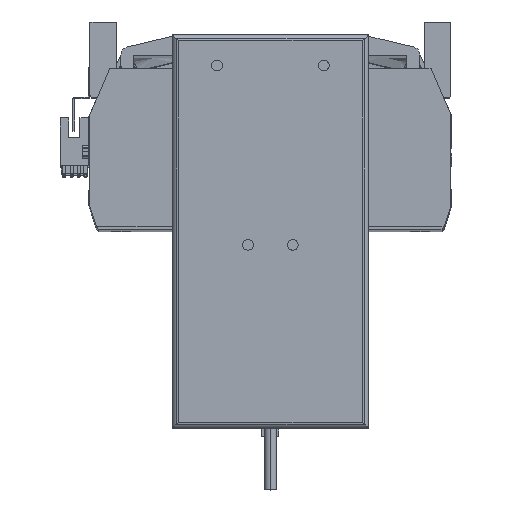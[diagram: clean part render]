
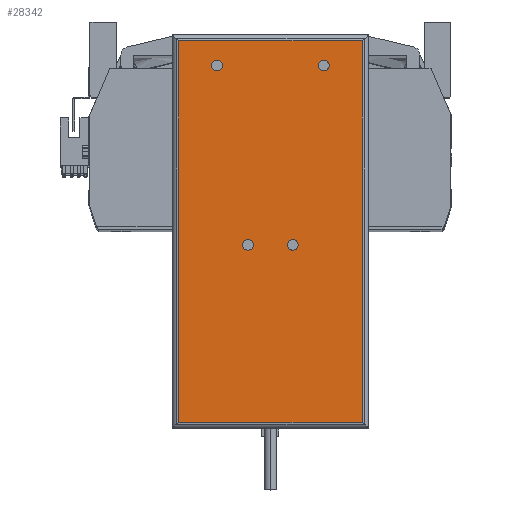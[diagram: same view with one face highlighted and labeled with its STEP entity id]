
A CAD part, top view. The second image highlights one B-rep face of the part: STEP entity #28342.
In plain terms, the highlighted planar face has unit normal (0, 0, 1) as drawn and (0, 0, -1) by its records, which use the part's own axes.
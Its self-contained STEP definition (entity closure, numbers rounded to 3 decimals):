
#518 = CARTESIAN_POINT ( 'NONE',  ( 10.5, -6.25, 0. ) ) ;
#946 = AXIS2_PLACEMENT_3D ( 'NONE', #7692, #36836, #37496 ) ;
#1344 = FACE_BOUND ( 'NONE', #45784, .T. ) ;
#1875 = CARTESIAN_POINT ( 'NONE',  ( 43., -89.25, 0. ) ) ;
#2002 = DIRECTION ( 'NONE',  ( -1., 0., 0. ) ) ;
#2312 = LINE ( 'NONE', #38564, #41422 ) ;
#2631 = CARTESIAN_POINT ( 'NONE',  ( -27.5, 77.75, 0. ) ) ;
#3006 = VERTEX_POINT ( 'NONE', #35651 ) ;
#3367 = ORIENTED_EDGE ( 'NONE', *, *, #8980, .F. ) ;
#3804 = VERTEX_POINT ( 'NONE', #13944 ) ;
#3977 = AXIS2_PLACEMENT_3D ( 'NONE', #9798, #20318, #2002 ) ;
#4500 = ORIENTED_EDGE ( 'NONE', *, *, #20117, .F. ) ;
#4527 = DIRECTION ( 'NONE',  ( -1., 0., 0. ) ) ;
#5779 = AXIS2_PLACEMENT_3D ( 'NONE', #34551, #19709, #12463 ) ;
#6053 = DIRECTION ( 'NONE',  ( 1., 0., 0. ) ) ;
#6352 = ORIENTED_EDGE ( 'NONE', *, *, #27190, .F. ) ;
#6392 = EDGE_LOOP ( 'NONE', ( #6423, #45584 ) ) ;
#6423 = ORIENTED_EDGE ( 'NONE', *, *, #13571, .F. ) ;
#6635 = EDGE_CURVE ( 'NONE', #3006, #37283, #2312, .T. ) ;
#7560 = AXIS2_PLACEMENT_3D ( 'NONE', #518, #25920, #4527 ) ;
#7692 = CARTESIAN_POINT ( 'NONE',  ( -25., 77.75, 0. ) ) ;
#8980 = EDGE_CURVE ( 'NONE', #12681, #25130, #18319, .T. ) ;
#9498 = CARTESIAN_POINT ( 'NONE',  ( 22.5, 77.75, 0. ) ) ;
#9798 = CARTESIAN_POINT ( 'NONE',  ( 25., 77.75, 0. ) ) ;
#10318 = EDGE_LOOP ( 'NONE', ( #3367, #6352 ) ) ;
#10661 = DIRECTION ( 'NONE',  ( -1., 0., 0. ) ) ;
#10786 = EDGE_CURVE ( 'NONE', #31329, #12184, #25059, .T. ) ;
#10947 = CARTESIAN_POINT ( 'NONE',  ( 25., 77.75, 0. ) ) ;
#11715 = CARTESIAN_POINT ( 'NONE',  ( 27.5, 77.75, 0. ) ) ;
#12026 = CARTESIAN_POINT ( 'NONE',  ( 8., -6.25, 0. ) ) ;
#12184 = VERTEX_POINT ( 'NONE', #11715 ) ;
#12463 = DIRECTION ( 'NONE',  ( -1., 0., 0. ) ) ;
#12681 = VERTEX_POINT ( 'NONE', #2631 ) ;
#12973 = ORIENTED_EDGE ( 'NONE', *, *, #47488, .T. ) ;
#13298 = AXIS2_PLACEMENT_3D ( 'NONE', #31787, #24059, #17130 ) ;
#13571 = EDGE_CURVE ( 'NONE', #46091, #43915, #41491, .T. ) ;
#13944 = CARTESIAN_POINT ( 'NONE',  ( -43., -89.25, 0. ) ) ;
#13972 = PLANE ( 'NONE',  #15790 ) ;
#14361 = DIRECTION ( 'NONE',  ( -1., 0., 0. ) ) ;
#15069 = LINE ( 'NONE', #41847, #33528 ) ;
#15120 = FACE_BOUND ( 'NONE', #6392, .T. ) ;
#15749 = VERTEX_POINT ( 'NONE', #43233 ) ;
#15790 = AXIS2_PLACEMENT_3D ( 'NONE', #32523, #43693, #40028 ) ;
#17130 = DIRECTION ( 'NONE',  ( -1., 0., 0. ) ) ;
#17313 = DIRECTION ( 'NONE',  ( 0., 0., -1. ) ) ;
#17891 = CIRCLE ( 'NONE', #7560, 2.5 ) ;
#18319 = CIRCLE ( 'NONE', #946, 2.5 ) ;
#19300 = AXIS2_PLACEMENT_3D ( 'NONE', #35346, #17313, #46525 ) ;
#19709 = DIRECTION ( 'NONE',  ( 0., 0., -1. ) ) ;
#20117 = EDGE_CURVE ( 'NONE', #12184, #31329, #20377, .T. ) ;
#20318 = DIRECTION ( 'NONE',  ( 0., 0., -1. ) ) ;
#20377 = CIRCLE ( 'NONE', #3977, 2.5 ) ;
#21260 = EDGE_LOOP ( 'NONE', ( #36484, #4500 ) ) ;
#21387 = ORIENTED_EDGE ( 'NONE', *, *, #33064, .T. ) ;
#21506 = DIRECTION ( 'NONE',  ( 0., 0., -1. ) ) ;
#22099 = EDGE_CURVE ( 'NONE', #37283, #27251, #15069, .T. ) ;
#23967 = CIRCLE ( 'NONE', #19300, 2.5 ) ;
#24059 = DIRECTION ( 'NONE',  ( 0., 0., -1. ) ) ;
#25059 = CIRCLE ( 'NONE', #37651, 2.5 ) ;
#25130 = VERTEX_POINT ( 'NONE', #45097 ) ;
#25760 = CARTESIAN_POINT ( 'NONE',  ( 13., -6.25, 0. ) ) ;
#25920 = DIRECTION ( 'NONE',  ( 0., 0., -1. ) ) ;
#26156 = EDGE_CURVE ( 'NONE', #15749, #35564, #23967, .T. ) ;
#26699 = CARTESIAN_POINT ( 'NONE',  ( -46., -89.25, 0. ) ) ;
#27190 = EDGE_CURVE ( 'NONE', #25130, #12681, #47426, .T. ) ;
#27251 = VERTEX_POINT ( 'NONE', #1875 ) ;
#27928 = VECTOR ( 'NONE', #39316, 1000. ) ;
#28342 = ADVANCED_FACE ( 'NONE', ( #36436, #1344, #15120, #29494, #35324 ), #13972, .F. ) ;
#29494 = FACE_BOUND ( 'NONE', #10318, .T. ) ;
#30627 = CIRCLE ( 'NONE', #13298, 2.5 ) ;
#30656 = CARTESIAN_POINT ( 'NONE',  ( -8., -6.25, 0. ) ) ;
#31329 = VERTEX_POINT ( 'NONE', #9498 ) ;
#31436 = LINE ( 'NONE', #46823, #27928 ) ;
#31787 = CARTESIAN_POINT ( 'NONE',  ( -10.5, -6.25, 0. ) ) ;
#31958 = ORIENTED_EDGE ( 'NONE', *, *, #22099, .T. ) ;
#32523 = CARTESIAN_POINT ( 'NONE',  ( -46., -92.25, 0. ) ) ;
#33064 = EDGE_CURVE ( 'NONE', #3804, #3006, #31436, .T. ) ;
#33528 = VECTOR ( 'NONE', #45845, 1000. ) ;
#34551 = CARTESIAN_POINT ( 'NONE',  ( -25., 77.75, 0. ) ) ;
#35324 = FACE_BOUND ( 'NONE', #21260, .T. ) ;
#35346 = CARTESIAN_POINT ( 'NONE',  ( -10.5, -6.25, 0. ) ) ;
#35564 = VERTEX_POINT ( 'NONE', #30656 ) ;
#35651 = CARTESIAN_POINT ( 'NONE',  ( -43., 89.25, 0. ) ) ;
#35752 = EDGE_CURVE ( 'NONE', #35564, #15749, #30627, .T. ) ;
#36436 = FACE_OUTER_BOUND ( 'NONE', #45791, .T. ) ;
#36484 = ORIENTED_EDGE ( 'NONE', *, *, #10786, .F. ) ;
#36836 = DIRECTION ( 'NONE',  ( 0., 0., -1. ) ) ;
#36946 = VECTOR ( 'NONE', #37791, 1000. ) ;
#37283 = VERTEX_POINT ( 'NONE', #40796 ) ;
#37407 = ORIENTED_EDGE ( 'NONE', *, *, #6635, .T. ) ;
#37496 = DIRECTION ( 'NONE',  ( -1., 0., 0. ) ) ;
#37523 = LINE ( 'NONE', #26699, #36946 ) ;
#37651 = AXIS2_PLACEMENT_3D ( 'NONE', #10947, #43430, #14361 ) ;
#37791 = DIRECTION ( 'NONE',  ( -1., 0., 0. ) ) ;
#38564 = CARTESIAN_POINT ( 'NONE',  ( -46., 89.25, 0. ) ) ;
#38957 = AXIS2_PLACEMENT_3D ( 'NONE', #43464, #21506, #10661 ) ;
#39316 = DIRECTION ( 'NONE',  ( 0., 1., 0. ) ) ;
#40028 = DIRECTION ( 'NONE',  ( 1., 0., 0. ) ) ;
#40038 = EDGE_CURVE ( 'NONE', #43915, #46091, #17891, .T. ) ;
#40796 = CARTESIAN_POINT ( 'NONE',  ( 43., 89.25, 0. ) ) ;
#41422 = VECTOR ( 'NONE', #6053, 1000. ) ;
#41491 = CIRCLE ( 'NONE', #38957, 2.5 ) ;
#41847 = CARTESIAN_POINT ( 'NONE',  ( 43., -92.25, 0. ) ) ;
#42014 = ORIENTED_EDGE ( 'NONE', *, *, #35752, .F. ) ;
#43027 = ORIENTED_EDGE ( 'NONE', *, *, #26156, .F. ) ;
#43233 = CARTESIAN_POINT ( 'NONE',  ( -13., -6.25, 0. ) ) ;
#43430 = DIRECTION ( 'NONE',  ( 0., 0., -1. ) ) ;
#43464 = CARTESIAN_POINT ( 'NONE',  ( 10.5, -6.25, 0. ) ) ;
#43693 = DIRECTION ( 'NONE',  ( 0., 0., 1. ) ) ;
#43915 = VERTEX_POINT ( 'NONE', #25760 ) ;
#45097 = CARTESIAN_POINT ( 'NONE',  ( -22.5, 77.75, 0. ) ) ;
#45584 = ORIENTED_EDGE ( 'NONE', *, *, #40038, .F. ) ;
#45784 = EDGE_LOOP ( 'NONE', ( #43027, #42014 ) ) ;
#45791 = EDGE_LOOP ( 'NONE', ( #31958, #12973, #21387, #37407 ) ) ;
#45845 = DIRECTION ( 'NONE',  ( 0., -1., 0. ) ) ;
#46091 = VERTEX_POINT ( 'NONE', #12026 ) ;
#46525 = DIRECTION ( 'NONE',  ( -1., 0., 0. ) ) ;
#46823 = CARTESIAN_POINT ( 'NONE',  ( -43., -92.25, 0. ) ) ;
#47426 = CIRCLE ( 'NONE', #5779, 2.5 ) ;
#47488 = EDGE_CURVE ( 'NONE', #27251, #3804, #37523, .T. ) ;
